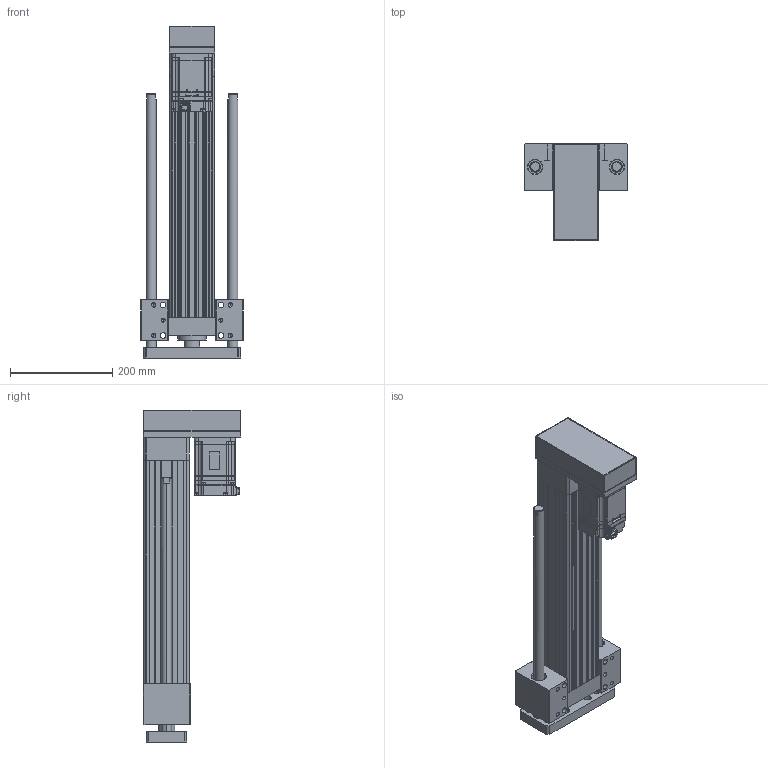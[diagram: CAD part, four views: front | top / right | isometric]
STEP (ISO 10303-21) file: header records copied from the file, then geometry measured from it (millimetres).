
FILE_DESCRIPTION (( 'STEP AP203' ), '1' );
FILE_NAME ('ANS090R-HP350-05(10)(20)-W75.STEP', '2019-03-02T09:44:13', ( 'user' ), ( '' ), 'SwSTEP 2.0', 'SolidWorks 2013', '' );
FILE_SCHEMA (( 'CONFIG_CONTROL_DESIGN' ));
Length unit declared in the file: millimetre
Products named in the file (4): ANS090R HP350 VER2; SGMJV_08A_A21; ANS090 ROD ST350-H; ANS090R-HP350-05(10)(20)-W75
Assembly tree (3 placements, depth 2):
  ANS090R-HP350-05(10)(20)-W75
    ANS090R HP350 VER2
    SGMJV_08A_A21
    ANS090 ROD ST350-H
Bounding box: 200 x 190 x 650 mm (x, y, z)
Volume: 4563078.1 mm3; surface area: 831122.7 mm2
Topology: 3 solids, 3 shells, 1228 faces, 3234 edges, 2090 vertices
Faces by surface type: plane 688, cylinder 434, cone 94, sphere 8, bspline 4
Entity records: 38470 total; most frequent: CARTESIAN_POINT 7180, DIRECTION 6468, ORIENTED_EDGE 6420, EDGE_CURVE 3210, VECTOR 2168, LINE 2168, AXIS2_PLACEMENT_3D 2150, VERTEX_POINT 2090
